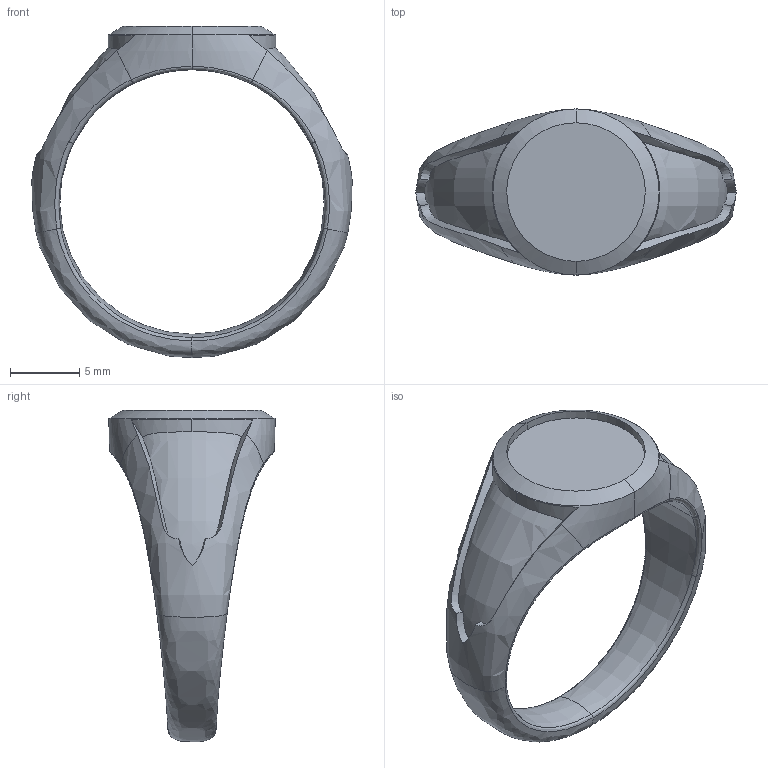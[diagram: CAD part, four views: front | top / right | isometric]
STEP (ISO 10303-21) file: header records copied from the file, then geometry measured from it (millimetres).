
FILE_DESCRIPTION(/* description */ (''),/* implementation_level */ '2;1');
FILE_NAME(/* name */ 's-4170',/* time_stamp */ '2021-07-05T14:33:56+09:00',/* author */ (''),/* organization */ (''),/* preprocessor_version */ 'ST-DEVELOPER v15',/* originating_system */ '',/* authorisation */ '');
FILE_SCHEMA (('AUTOMOTIVE_DESIGN'));
Length unit declared in the file: millimetre
Products named in the file (1): Document
Bounding box: 23.13 x 12 x 23.92 mm (x, y, z)
Volume: 633.2 mm3; surface area: 1170.6 mm2
Topology: 1 solids, 1 shells, 68 faces, 176 edges, 108 vertices
Faces by surface type: bspline 66, plane 2
Entity records: 22857 total; most frequent: CARTESIAN_POINT 21824, ORIENTED_EDGE 352, EDGE_CURVE 176, B_SPLINE_CURVE_WITH_KNOTS 122, VERTEX_POINT 108, ADVANCED_FACE 68, FACE_OUTER_BOUND 68, EDGE_LOOP 68
